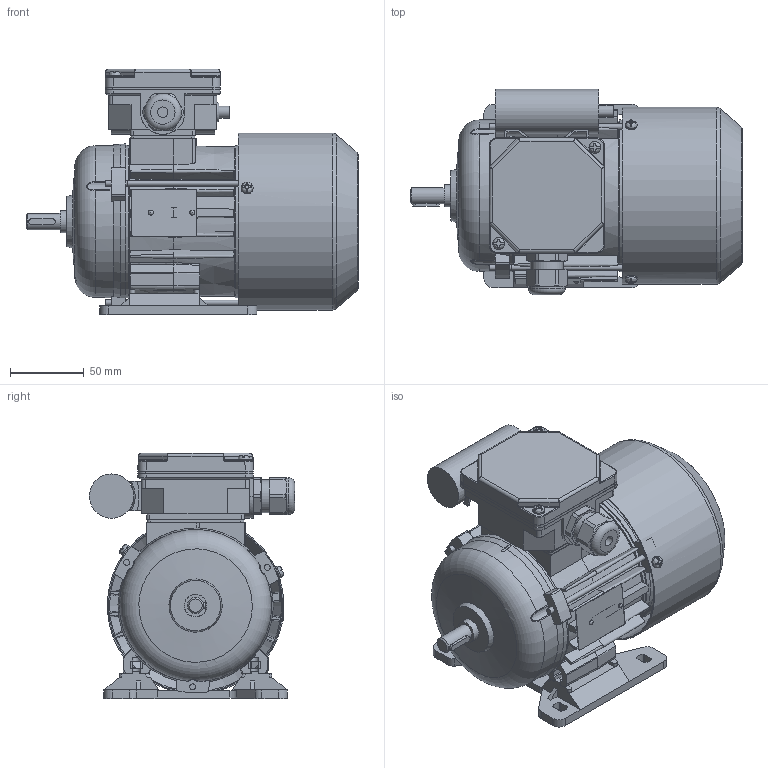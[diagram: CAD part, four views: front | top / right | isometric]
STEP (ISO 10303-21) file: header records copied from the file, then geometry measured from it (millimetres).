
FILE_DESCRIPTION( ( 'Unknown' ), '1' );
FILE_NAME( 'G:/Poczta Tk-1/STP/w.m.63/SEh63/SE(M)h63-C.stp', 'Unknown', ( 'K. Szlosek' ), ( 'BESEL S.A.' ), 'PSStep 17.0.49', 'Unknown', ' ' );
FILE_SCHEMA( ( 'AUTOMOTIVE_DESIGN { 1 0 10303 214 1 1 1 1 }' ) );
Length unit declared in the file: millimetre
Products named in the file (33): Assem1; K3-9973 Kadłub ze stojanem wykończonym Sh63-C; K3-5320 Tarcza łożyskowa P Sg63; K4-2320 Uszczelka nr 1 Sh71,80; Wpust A4x4x18; K3-5321 osłona przewietrznika Sg63; K4-2820 Uszczelka nr 2 Sh71,80; K2-0860 Pokrywka skrzynki zaciskowej; Wkręt samogwintujący M4x16; K4-0898 Tulejka uszczelniająca; Kondensator zb 8-10uF; K2-1769 Przewietrznik Sg63; Wkręt samogwintujący M4x8; K1-1107 Łapa Sg63-.. w. robocza; K3-9974 wał Sh63-C standard; K3-9440 Podstawa  skrzynki zaciskowej SEhR71-D; K3-1974 Uchwyt kondensatora (mały); Dławnica M20x1,5; Łożysko 6202; Śruba ściągająca E_M4x100; Tabliczka znamionowa 32x44; Nitokołek A 2x6; K2-1763 Tarcza łożyskowa N Sh63
Assembly tree (49 placements, depth 2):
  Assem1
    K3-9973 Kadłub ze stojanem wykończonym Sh63-C
    K3-5320 Tarcza łożyskowa P Sg63
    K4-2320 Uszczelka nr 1 Sh71,80
    Wpust A4x4x18
    K3-5321 osłona przewietrznika Sg63
    K4-2820 Uszczelka nr 2 Sh71,80
    K2-0860 Pokrywka skrzynki zaciskowej
    Wkręt samogwintujący M4x16  x2
    K4-0898 Tulejka uszczelniająca
    Kondensator zb 8-10uF
    K2-1769 Przewietrznik Sg63
    Wkręt samogwintujący M4x8  x3
    K1-1107 Łapa Sg63-.. w. robocza
    K3-9974 wał Sh63-C standard
    K3-9440 Podstawa  skrzynki zaciskowej SEhR71-D
    K3-1974 Uchwyt kondensatora (mały)
    Dławnica M20x1,5
    Łożysko 6202  x2
    Łożysko 6202  x2
    Łożysko 6202  x2
    Łożysko 6202  x2
    Łożysko 6202  x2
    Łożysko 6202  x2
    Łożysko 6202  x2
    Łożysko 6202  x2
    Łożysko 6202  x2
    Łożysko 6202  x2
    Łożysko 6202  x2
    Śruba ściągająca E_M4x100  x3
    Tabliczka znamionowa 32x44
    Nitokołek A 2x6  x2
    K2-1763 Tarcza łożyskowa N Sh63
Bounding box: 224.5 x 138.82 x 166 mm (x, y, z)
Volume: 594596.3 mm3; surface area: 376173.3 mm2
Topology: 49 solids, 67 shells, 2116 faces, 5833 edges, 3789 vertices
Faces by surface type: plane 1054, cylinder 602, cone 160, torus 148, bspline 113, sphere 39
Full cylindrical faces by diameter (mm): 2 x2, 2.4 x2, 3 x1, 3.242 x3, 3.5 x2, 3.7 x10, 4 x8, 4.5 x4, 4.6 x1, 4.8 x4, 5 x4, 5.8 x4, 6.5 x1, 7 x4, 8 x7, 10 x2, 11 x1, 12.9 x1, 13.1 x1, 13.5 x1, 15 x4, 15.4 x2, 18.38 x1, 18.5 x1, 19 x2, 19.5 x1, 20 x2, 20.1 x1, 21.52 x4, 22.3 x1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
Entity records: 94592 total; most frequent: CARTESIAN_POINT 31107, ORIENTED_EDGE 10226, DIRECTION 9705, EDGE_CURVE 5113, AXIS2_PLACEMENT_3D 3614, VERTEX_POINT 3469, LINE 2477, VECTOR 2477
